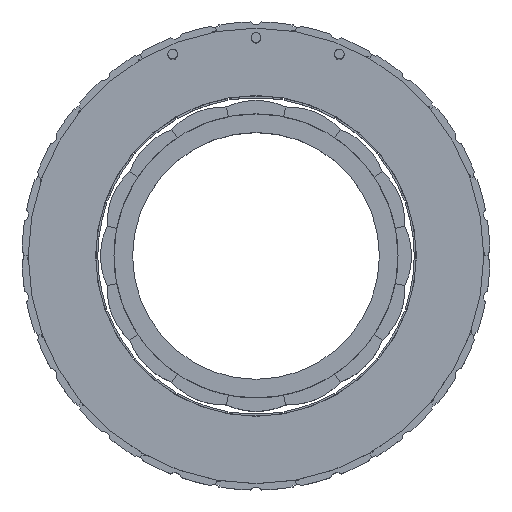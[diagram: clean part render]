
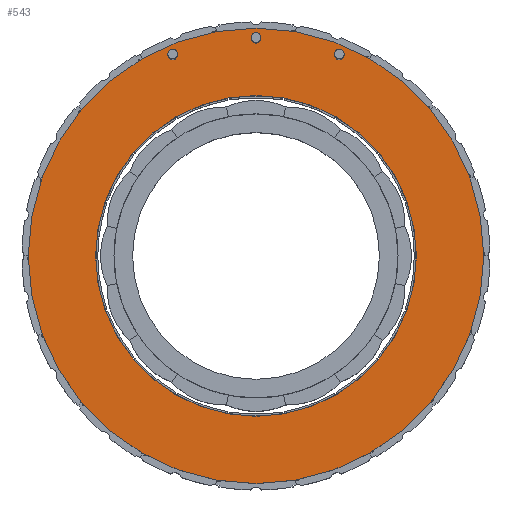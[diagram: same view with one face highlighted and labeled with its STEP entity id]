
A CAD part, top view. The second image highlights one B-rep face of the part: STEP entity #543.
In plain terms, the highlighted planar face has unit normal (0, 0, 1).
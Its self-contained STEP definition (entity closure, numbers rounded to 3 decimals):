
#9 = CIRCLE ( 'NONE', #4954, 35.75 ) ;
#10 = CARTESIAN_POINT ( 'NONE',  ( 0., 48.5, 28. ) ) ;
#47 = AXIS2_PLACEMENT_3D ( 'NONE', #674, #5048, #1211 ) ;
#232 = EDGE_CURVE ( 'NONE', #3448, #1210, #4264, .T. ) ;
#244 = ORIENTED_EDGE ( 'NONE', *, *, #1382, .F. ) ;
#253 = PLANE ( 'NONE',  #2471 ) ;
#287 = CARTESIAN_POINT ( 'NONE',  ( 0., 48.5, 28. ) ) ;
#464 = EDGE_CURVE ( 'NONE', #2446, #4035, #5243, .T. ) ;
#483 = EDGE_CURVE ( 'NONE', #4035, #2446, #3001, .T. ) ;
#536 = EDGE_LOOP ( 'NONE', ( #5466, #3671 ) ) ;
#543 = ADVANCED_FACE ( 'NONE', ( #2390, #4102, #4893, #3238, #4498 ), #253, .T. ) ;
#650 = VERTEX_POINT ( 'NONE', #3524 ) ;
#674 = CARTESIAN_POINT ( 'NONE',  ( -18.56, 44.808, 28. ) ) ;
#693 = DIRECTION ( 'NONE',  ( 1., 0., 0. ) ) ;
#694 = CARTESIAN_POINT ( 'NONE',  ( -35.75, 0., 28. ) ) ;
#715 = CARTESIAN_POINT ( 'NONE',  ( 0., 0., 28. ) ) ;
#749 = DIRECTION ( 'NONE',  ( 1., 0., 0. ) ) ;
#761 = ORIENTED_EDGE ( 'NONE', *, *, #464, .F. ) ;
#774 = AXIS2_PLACEMENT_3D ( 'NONE', #3535, #2269, #693 ) ;
#777 = AXIS2_PLACEMENT_3D ( 'NONE', #3630, #2365, #4100 ) ;
#841 = EDGE_LOOP ( 'NONE', ( #4992, #3505 ) ) ;
#889 = ORIENTED_EDGE ( 'NONE', *, *, #232, .F. ) ;
#932 = CARTESIAN_POINT ( 'NONE',  ( 35.75, 0., 28. ) ) ;
#1075 = ORIENTED_EDGE ( 'NONE', *, *, #3777, .F. ) ;
#1110 = DIRECTION ( 'NONE',  ( 0., 0., 1. ) ) ;
#1139 = AXIS2_PLACEMENT_3D ( 'NONE', #10, #3160, #4394 ) ;
#1141 = CIRCLE ( 'NONE', #47, 1.08 ) ;
#1171 = EDGE_LOOP ( 'NONE', ( #761, #4229 ) ) ;
#1210 = VERTEX_POINT ( 'NONE', #1773 ) ;
#1211 = DIRECTION ( 'NONE',  ( 1., 0., 0. ) ) ;
#1354 = CARTESIAN_POINT ( 'NONE',  ( 1.08, 48.5, 28. ) ) ;
#1370 = CIRCLE ( 'NONE', #2160, 1.08 ) ;
#1382 = EDGE_CURVE ( 'NONE', #5179, #1579, #4972, .T. ) ;
#1504 = EDGE_LOOP ( 'NONE', ( #244, #3567 ) ) ;
#1568 = DIRECTION ( 'NONE',  ( 1., 0., 0. ) ) ;
#1579 = VERTEX_POINT ( 'NONE', #4610 ) ;
#1586 = AXIS2_PLACEMENT_3D ( 'NONE', #287, #5001, #3661 ) ;
#1590 = CARTESIAN_POINT ( 'NONE',  ( 17.48, 44.808, 28. ) ) ;
#1637 = EDGE_LOOP ( 'NONE', ( #1075, #889 ) ) ;
#1708 = DIRECTION ( 'NONE',  ( 0., 0., 1. ) ) ;
#1773 = CARTESIAN_POINT ( 'NONE',  ( -19.64, 44.808, 28. ) ) ;
#1832 = CARTESIAN_POINT ( 'NONE',  ( -17.48, 44.808, 28. ) ) ;
#1945 = AXIS2_PLACEMENT_3D ( 'NONE', #2113, #3830, #3398 ) ;
#2039 = CARTESIAN_POINT ( 'NONE',  ( -1.08, 48.5, 28. ) ) ;
#2113 = CARTESIAN_POINT ( 'NONE',  ( -18.56, 44.808, 28. ) ) ;
#2133 = DIRECTION ( 'NONE',  ( 0., 0., 1. ) ) ;
#2160 = AXIS2_PLACEMENT_3D ( 'NONE', #2535, #4581, #749 ) ;
#2269 = DIRECTION ( 'NONE',  ( 0., 0., 1. ) ) ;
#2365 = DIRECTION ( 'NONE',  ( 0., 0., 1. ) ) ;
#2390 = FACE_BOUND ( 'NONE', #1637, .T. ) ;
#2440 = EDGE_CURVE ( 'NONE', #1579, #5179, #1370, .T. ) ;
#2446 = VERTEX_POINT ( 'NONE', #2039 ) ;
#2471 = AXIS2_PLACEMENT_3D ( 'NONE', #715, #1110, #1568 ) ;
#2535 = CARTESIAN_POINT ( 'NONE',  ( 18.56, 44.808, 28. ) ) ;
#2559 = AXIS2_PLACEMENT_3D ( 'NONE', #4966, #3712, #3793 ) ;
#2568 = VERTEX_POINT ( 'NONE', #932 ) ;
#2578 = VERTEX_POINT ( 'NONE', #3914 ) ;
#2652 = CIRCLE ( 'NONE', #2559, 50.75 ) ;
#3001 = CIRCLE ( 'NONE', #1586, 1.08 ) ;
#3160 = DIRECTION ( 'NONE',  ( 0., 0., 1. ) ) ;
#3189 = CIRCLE ( 'NONE', #777, 35.75 ) ;
#3219 = EDGE_CURVE ( 'NONE', #4535, #2568, #9, .T. ) ;
#3238 = FACE_OUTER_BOUND ( 'NONE', #536, .T. ) ;
#3398 = DIRECTION ( 'NONE',  ( 1., 0., 0. ) ) ;
#3448 = VERTEX_POINT ( 'NONE', #1832 ) ;
#3485 = DIRECTION ( 'NONE',  ( 1., 0., 0. ) ) ;
#3505 = ORIENTED_EDGE ( 'NONE', *, *, #4941, .F. ) ;
#3524 = CARTESIAN_POINT ( 'NONE',  ( -50.75, 0., 28. ) ) ;
#3535 = CARTESIAN_POINT ( 'NONE',  ( 18.56, 44.808, 28. ) ) ;
#3567 = ORIENTED_EDGE ( 'NONE', *, *, #2440, .F. ) ;
#3630 = CARTESIAN_POINT ( 'NONE',  ( 0., 0., 28. ) ) ;
#3661 = DIRECTION ( 'NONE',  ( 1., 0., 0. ) ) ;
#3671 = ORIENTED_EDGE ( 'NONE', *, *, #3782, .T. ) ;
#3712 = DIRECTION ( 'NONE',  ( 0., 0., 1. ) ) ;
#3777 = EDGE_CURVE ( 'NONE', #1210, #3448, #1141, .T. ) ;
#3782 = EDGE_CURVE ( 'NONE', #2578, #650, #2652, .T. ) ;
#3793 = DIRECTION ( 'NONE',  ( 1., 0., 0. ) ) ;
#3830 = DIRECTION ( 'NONE',  ( 0., 0., 1. ) ) ;
#3907 = DIRECTION ( 'NONE',  ( 1., 0., 0. ) ) ;
#3914 = CARTESIAN_POINT ( 'NONE',  ( 50.75, 0., 28. ) ) ;
#4035 = VERTEX_POINT ( 'NONE', #1354 ) ;
#4100 = DIRECTION ( 'NONE',  ( 1., 0., 0. ) ) ;
#4102 = FACE_BOUND ( 'NONE', #1504, .T. ) ;
#4226 = CARTESIAN_POINT ( 'NONE',  ( 0., 0., 28. ) ) ;
#4229 = ORIENTED_EDGE ( 'NONE', *, *, #483, .F. ) ;
#4264 = CIRCLE ( 'NONE', #1945, 1.08 ) ;
#4394 = DIRECTION ( 'NONE',  ( 1., 0., 0. ) ) ;
#4498 = FACE_BOUND ( 'NONE', #841, .T. ) ;
#4535 = VERTEX_POINT ( 'NONE', #694 ) ;
#4581 = DIRECTION ( 'NONE',  ( 0., 0., 1. ) ) ;
#4610 = CARTESIAN_POINT ( 'NONE',  ( 19.64, 44.808, 28. ) ) ;
#4770 = EDGE_CURVE ( 'NONE', #650, #2578, #5216, .T. ) ;
#4776 = CARTESIAN_POINT ( 'NONE',  ( 0., 0., 28. ) ) ;
#4893 = FACE_BOUND ( 'NONE', #1171, .T. ) ;
#4941 = EDGE_CURVE ( 'NONE', #2568, #4535, #3189, .T. ) ;
#4954 = AXIS2_PLACEMENT_3D ( 'NONE', #4776, #2133, #3907 ) ;
#4966 = CARTESIAN_POINT ( 'NONE',  ( 0., 0., 28. ) ) ;
#4972 = CIRCLE ( 'NONE', #774, 1.08 ) ;
#4992 = ORIENTED_EDGE ( 'NONE', *, *, #3219, .F. ) ;
#5001 = DIRECTION ( 'NONE',  ( 0., 0., 1. ) ) ;
#5044 = AXIS2_PLACEMENT_3D ( 'NONE', #4226, #1708, #3485 ) ;
#5048 = DIRECTION ( 'NONE',  ( 0., 0., 1. ) ) ;
#5179 = VERTEX_POINT ( 'NONE', #1590 ) ;
#5216 = CIRCLE ( 'NONE', #5044, 50.75 ) ;
#5243 = CIRCLE ( 'NONE', #1139, 1.08 ) ;
#5466 = ORIENTED_EDGE ( 'NONE', *, *, #4770, .T. ) ;
